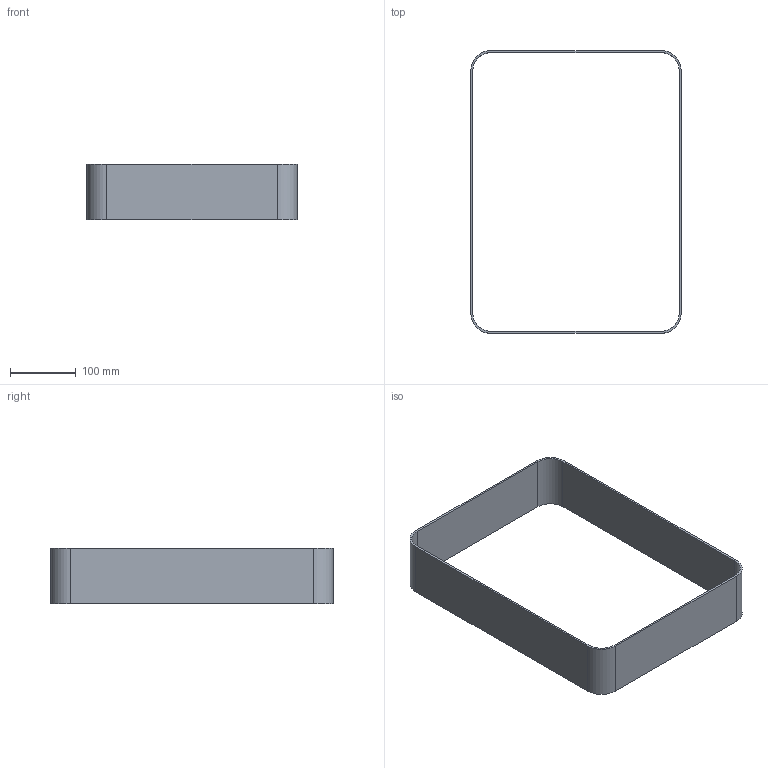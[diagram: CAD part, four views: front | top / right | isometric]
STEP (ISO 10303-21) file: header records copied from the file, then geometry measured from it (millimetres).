
FILE_DESCRIPTION(('Open CASCADE Model'),'2;1');
FILE_NAME('Open CASCADE Shape Model','2026-10-06T19:56:08',('Author'),( 'Open CASCADE'),'Open CASCADE STEP processor 7.9','Open CASCADE 7.9' ,'Unknown');
FILE_SCHEMA(('AUTOMOTIVE_DESIGN { 1 0 10303 214 1 1 1 1 }'));
Length unit declared in the file: millimetre
Products named in the file (1): Open CASCADE STEP translator 7.9 3
Bounding box: 320 x 430 x 84 mm (x, y, z)
Volume: 362645.8 mm3; surface area: 250398.3 mm2
Topology: 1 solids, 1 shells, 18 faces, 48 edges, 32 vertices
Faces by surface type: plane 10, cylinder 8
Entity records: 1196 total; most frequent: CARTESIAN_POINT 223, DIRECTION 180, ORIENTED_EDGE 96, LINE 96, VECTOR 96, PCURVE 96, DEFINITIONAL_REPRESENTATION 96, EDGE_CURVE 48
